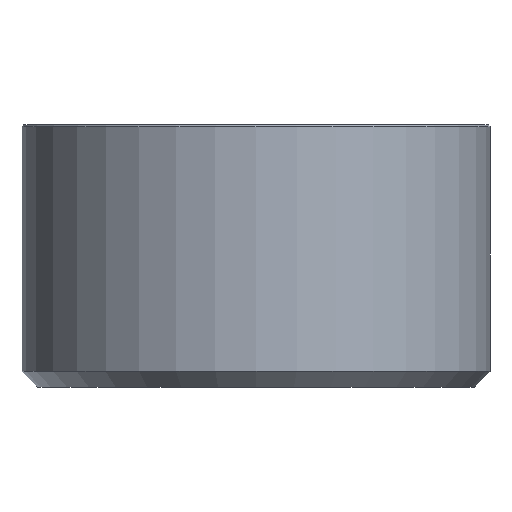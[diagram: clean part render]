
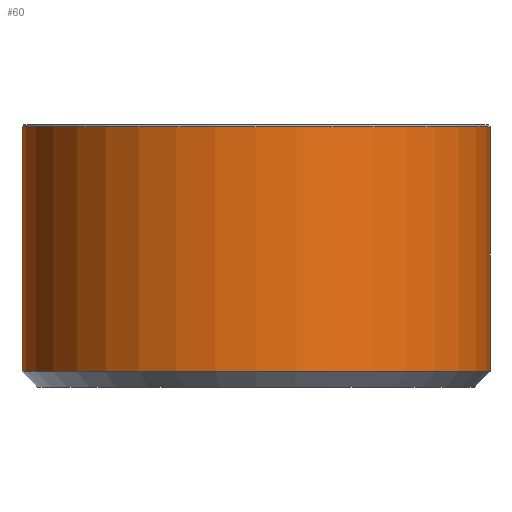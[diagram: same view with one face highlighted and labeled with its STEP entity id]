
A CAD part, front view. The second image highlights one B-rep face of the part: STEP entity #60.
In plain terms, the highlighted cylindrical face has radius 15 mm (diameter 30 mm), a full revolution.
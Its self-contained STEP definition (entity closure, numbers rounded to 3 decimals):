
#44=CYLINDRICAL_SURFACE('',#514,15.);
#60=ADVANCED_FACE('',(#113,#114),#44,.T.);
#113=FACE_BOUND('',#183,.T.);
#114=FACE_BOUND('',#184,.T.);
#183=EDGE_LOOP('',(#253));
#184=EDGE_LOOP('',(#254));
#253=ORIENTED_EDGE('',*,*,#358,.T.);
#254=ORIENTED_EDGE('',*,*,#359,.T.);
#323=VERTEX_POINT('',#758);
#324=VERTEX_POINT('',#760);
#358=EDGE_CURVE('',#323,#323,#397,.T.);
#359=EDGE_CURVE('',#324,#324,#398,.T.);
#397=CIRCLE('',#512,15.);
#398=CIRCLE('',#513,15.);
#512=AXIS2_PLACEMENT_3D('',#757,#616,#617);
#513=AXIS2_PLACEMENT_3D('',#759,#618,#619);
#514=AXIS2_PLACEMENT_3D('',#761,#620,#621);
#616=DIRECTION('',(0.,0.,-1.));
#617=DIRECTION('',(1.,0.,0.));
#618=DIRECTION('',(0.,0.,1.));
#619=DIRECTION('',(-1.,0.,0.));
#620=DIRECTION('',(0.,0.,1.));
#621=DIRECTION('',(1.,0.,0.));
#757=CARTESIAN_POINT('',(0.,0.,16.7));
#758=CARTESIAN_POINT('',(15.,0.,16.7));
#759=CARTESIAN_POINT('',(0.,0.,1.));
#760=CARTESIAN_POINT('',(-15.,0.,1.));
#761=CARTESIAN_POINT('',(0.,0.,0.));
